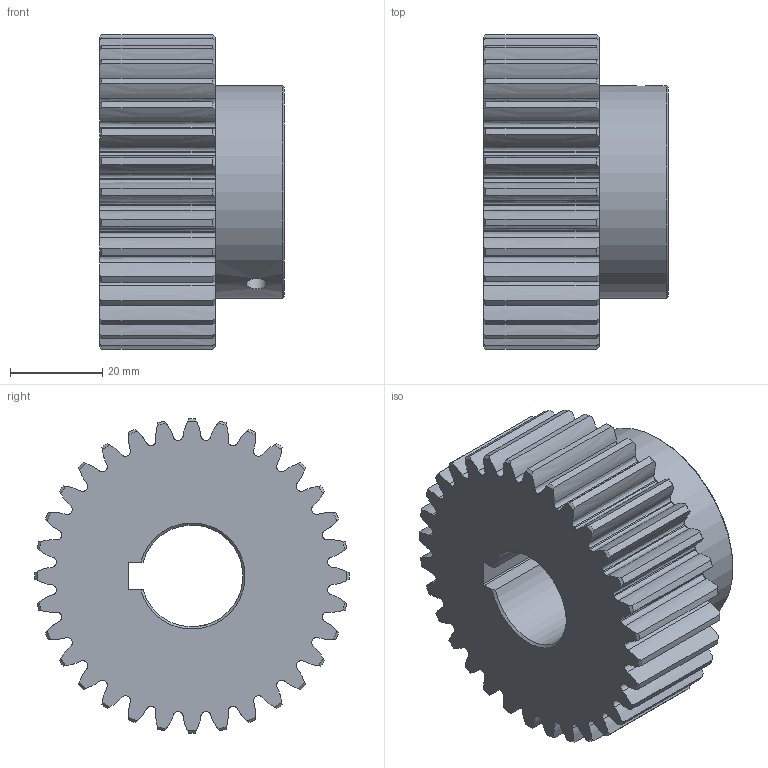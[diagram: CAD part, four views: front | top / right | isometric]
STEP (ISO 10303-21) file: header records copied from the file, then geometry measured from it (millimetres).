
FILE_DESCRIPTION(('STEP AP214'), '1');
FILE_NAME('GS2-T32D22 - Øåñòåðíÿ', '2018-06-14T07:36:56', (''), (''), 'ASCON STEP Converter 1.3', 'ASCON Math Kernel', '');
FILE_SCHEMA(('AUTOMOTIVE_DESIGN { 1 0 10303 214 3 1 1}'));
Length unit declared in the file: millimetre
Products named in the file (1): GS2-T32D22
Bounding box: 40 x 68 x 68 mm (x, y, z)
Volume: 88394.3 mm3; surface area: 20665.3 mm2
Topology: 1 solids, 1 shells, 271 faces, 805 edges, 539 vertices
Faces by surface type: extrusion 128, cylinder 70, cone 67, plane 6
Full cylindrical faces by diameter (mm): 4.134 x1, 4.458 x1, 46 x1
Entity records: 14224 total; most frequent: CARTESIAN_POINT 5159, ORIENTED_EDGE 1598, DIRECTION 1036, EDGE_CURVE 799, VERTEX_POINT 535, B_SPLINE_CURVE_WITH_KNOTS 518, AXIS2_PLACEMENT_3D 352, VECTOR 332
